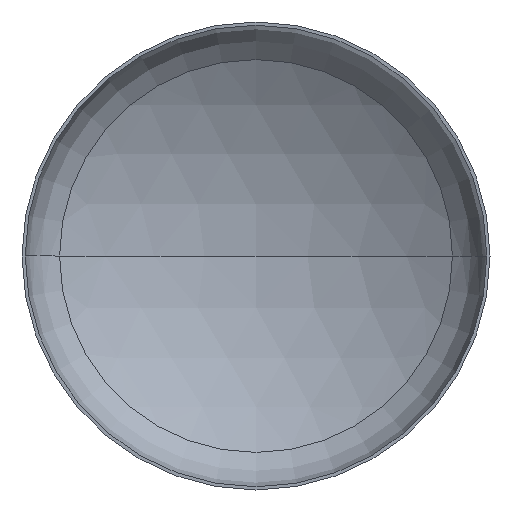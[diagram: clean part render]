
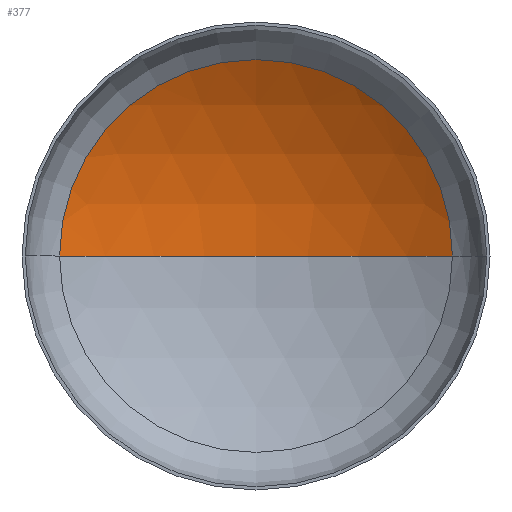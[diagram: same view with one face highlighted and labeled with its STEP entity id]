
A CAD part, front view. The second image highlights one B-rep face of the part: STEP entity #377.
In plain terms, the highlighted spherical face has radius 3600 mm.
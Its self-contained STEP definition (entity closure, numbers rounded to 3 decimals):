
#4 = ORIENTED_EDGE ( 'NONE', *, *, #142, .F. ) ;
#14 = CARTESIAN_POINT ( 'NONE',  ( 0., 691.682, 0. ) ) ;
#18 = VERTEX_POINT ( 'NONE', #247 ) ;
#21 = EDGE_LOOP ( 'NONE', ( #4, #97, #27 ) ) ;
#27 = ORIENTED_EDGE ( 'NONE', *, *, #138, .T. ) ;
#36 = AXIS2_PLACEMENT_3D ( 'NONE', #213, #225, #220 ) ;
#37 = CIRCLE ( 'NONE', #40, 1888.606 ) ;
#38 = AXIS2_PLACEMENT_3D ( 'NONE', #177, #203, #361 ) ;
#40 = AXIS2_PLACEMENT_3D ( 'NONE', #14, #401, #230 ) ;
#97 = ORIENTED_EDGE ( 'NONE', *, *, #139, .T. ) ;
#130 = VERTEX_POINT ( 'NONE', #294 ) ;
#136 = VERTEX_POINT ( 'NONE', #218 ) ;
#138 = EDGE_CURVE ( 'NONE', #18, #136, #37, .T. ) ;
#139 = EDGE_CURVE ( 'NONE', #130, #18, #363, .T. ) ;
#142 = EDGE_CURVE ( 'NONE', #130, #136, #411, .T. ) ;
#177 = CARTESIAN_POINT ( 'NONE',  ( 0., -2373.146, 0. ) ) ;
#191 = SPHERICAL_SURFACE ( 'NONE', #263, 3600. ) ;
#203 = DIRECTION ( 'NONE',  ( 0., 0., -1. ) ) ;
#210 = DIRECTION ( 'NONE',  ( 0., 0., -1. ) ) ;
#213 = CARTESIAN_POINT ( 'NONE',  ( 0., -2373.146, 0. ) ) ;
#218 = CARTESIAN_POINT ( 'NONE',  ( -1888.606, 691.682, 0. ) ) ;
#220 = DIRECTION ( 'NONE',  ( 1., 0., 0. ) ) ;
#225 = DIRECTION ( 'NONE',  ( 0., 0., 1. ) ) ;
#230 = DIRECTION ( 'NONE',  ( 1., 0., 0. ) ) ;
#247 = CARTESIAN_POINT ( 'NONE',  ( 1888.606, 691.682, 0. ) ) ;
#263 = AXIS2_PLACEMENT_3D ( 'NONE', #410, #210, #301 ) ;
#294 = CARTESIAN_POINT ( 'NONE',  ( 0., 1226.854, 0. ) ) ;
#301 = DIRECTION ( 'NONE',  ( -1., 0., 0. ) ) ;
#310 = FACE_OUTER_BOUND ( 'NONE', #21, .T. ) ;
#361 = DIRECTION ( 'NONE',  ( -1., 0., 0. ) ) ;
#363 = CIRCLE ( 'NONE', #38, 3600. ) ;
#377 = ADVANCED_FACE ( 'NONE', ( #310 ), #191, .F. ) ;
#401 = DIRECTION ( 'NONE',  ( 0., -1., 0. ) ) ;
#410 = CARTESIAN_POINT ( 'NONE',  ( 0., -2373.146, 0. ) ) ;
#411 = CIRCLE ( 'NONE', #36, 3600. ) ;
